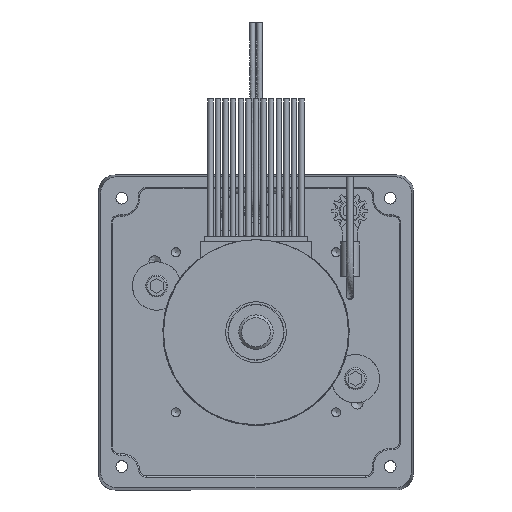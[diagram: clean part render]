
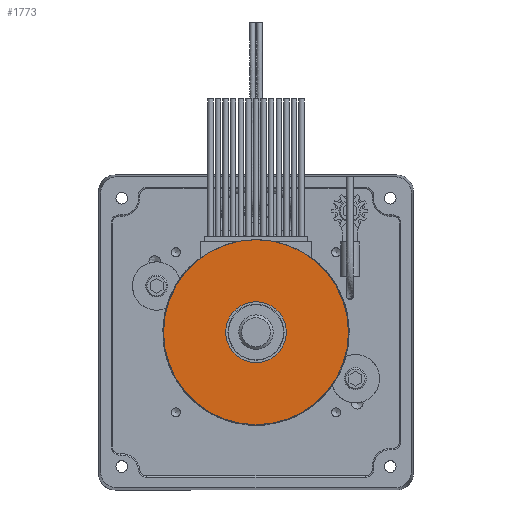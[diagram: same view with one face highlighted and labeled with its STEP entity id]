
A CAD part, top view. The second image highlights one B-rep face of the part: STEP entity #1773.
In plain terms, the highlighted planar face has unit normal (0, 0, 1).
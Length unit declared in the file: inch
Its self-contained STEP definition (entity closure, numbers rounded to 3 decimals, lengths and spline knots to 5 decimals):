
#123=CARTESIAN_POINT('',(0.22,0.,2.5545));
#124=VERTEX_POINT('',#123);
#125=CARTESIAN_POINT('',(0.0,0.0,2.5545));
#126=DIRECTION('',(0.0,0.0,-1.0));
#127=DIRECTION('',(-1.0,0.0,0.0));
#128=AXIS2_PLACEMENT_3D('',#125,#126,#127);
#129=CIRCLE('',#128,0.22);
#130=EDGE_CURVE('',#124,#124,#129,.T.);
#1738=CARTESIAN_POINT('',(0.67,0.,2.5545));
#1739=VERTEX_POINT('',#1738);
#1740=CARTESIAN_POINT('',(0.0,0.0,2.5545));
#1741=DIRECTION('',(0.0,0.0,-1.0));
#1742=DIRECTION('',(-1.0,0.0,0.0));
#1743=AXIS2_PLACEMENT_3D('',#1740,#1741,#1742);
#1744=CIRCLE('',#1743,0.67);
#1745=EDGE_CURVE('',#1739,#1739,#1744,.T.);
#1762=CARTESIAN_POINT('',(0.0,0.0,2.5545));
#1763=DIRECTION('',(0.0,0.0,-1.0));
#1764=DIRECTION('',(-1.0,0.0,0.0));
#1765=AXIS2_PLACEMENT_3D('',#1762,#1763,#1764);
#1766=PLANE('',#1765);
#1767=ORIENTED_EDGE('',*,*,#1745,.F.);
#1768=EDGE_LOOP('',(#1767));
#1769=FACE_OUTER_BOUND('',#1768,.T.);
#1770=ORIENTED_EDGE('',*,*,#130,.T.);
#1771=EDGE_LOOP('',(#1770));
#1772=FACE_BOUND('',#1771,.T.);
#1773=ADVANCED_FACE('',(#1769,#1772),#1766,.F.);
